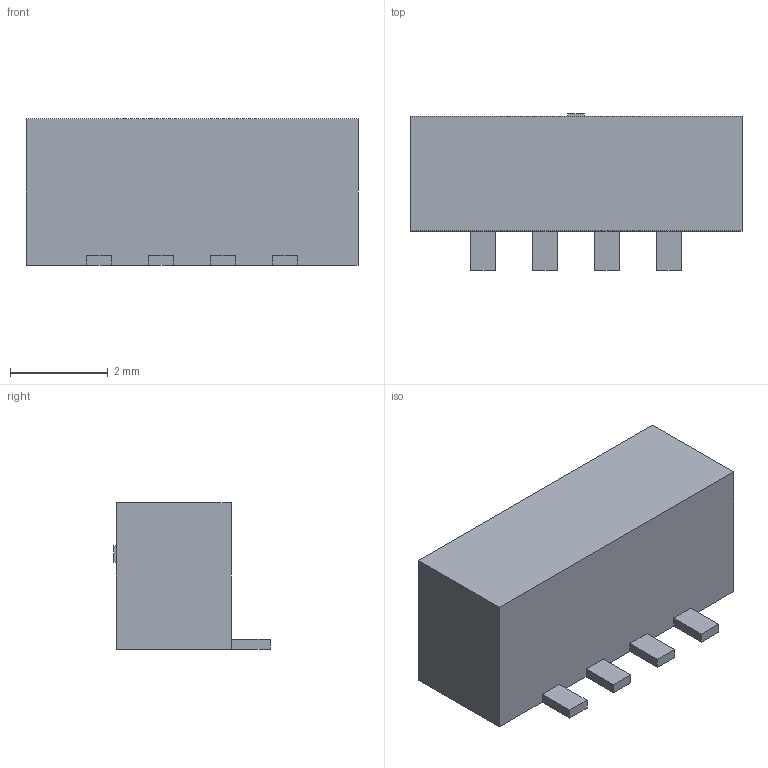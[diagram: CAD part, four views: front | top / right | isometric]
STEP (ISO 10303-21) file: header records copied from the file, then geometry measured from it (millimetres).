
FILE_DESCRIPTION(('Open CASCADE Model'),'2;1');
FILE_NAME('Vishay_VEML7700-TR_ambient_light_sensor', '2026-09-04T00:01:43',('Author'),('Open CASCADE'), 'Open CASCADE STEP processor 7.9','build123d','Unknown');
FILE_SCHEMA(('AUTOMOTIVE_DESIGN { 1 0 10303 214 1 1 1 1 }'));
Length unit declared in the file: millimetre
Products named in the file (4): Vishay_VEML7700-TR_ambient_light_sensor; package; leads_4x; sensitive_area_0p336sq
Assembly tree (3 placements, depth 2):
  Vishay_VEML7700-TR_ambient_light_sensor
    package
    leads_4x
    sensitive_area_0p336sq
Bounding box: 6.8 x 3.2 x 3 mm (x, y, z)
Volume: 48.3 mm3; surface area: 95.4 mm2
Topology: 6 solids, 6 shells, 52 faces, 120 edges, 80 vertices
Faces by surface type: plane 52
Entity records: 1498 total; most frequent: CARTESIAN_POINT 256, ORIENTED_EDGE 240, DIRECTION 232, EDGE_CURVE 120, LINE 120, VECTOR 120, VERTEX_POINT 80, AXIS2_PLACEMENT_3D 56
